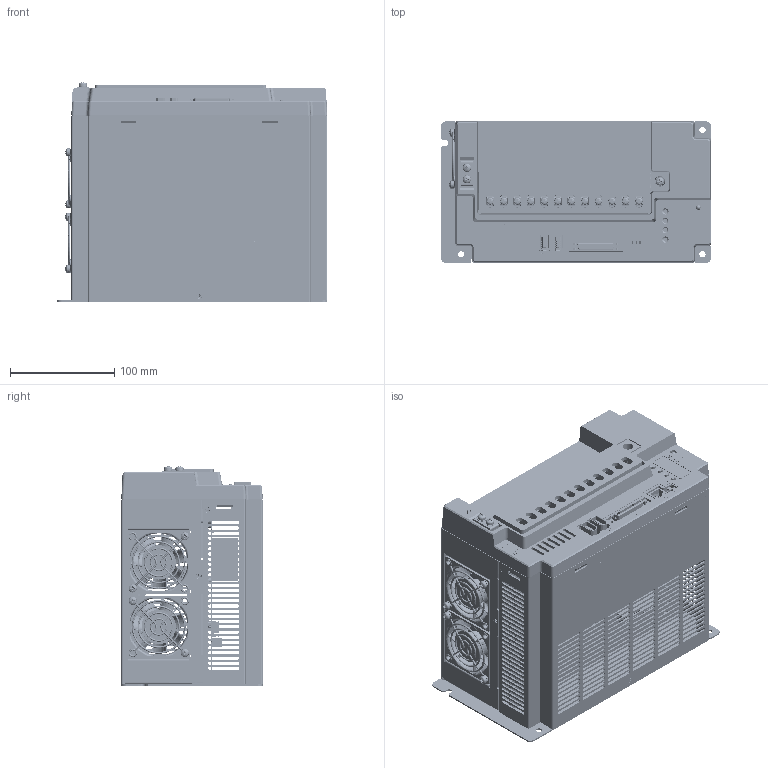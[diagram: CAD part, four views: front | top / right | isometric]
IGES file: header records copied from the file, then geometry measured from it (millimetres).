
Global section: file name: No Iges File Name specified; native system: AutoDesk Inventor R12.0; preprocessor: AutoDesk Inventor Iges Exporter R12.0; author: No Author specified; organization: No Organization specified; date: 20150723.135945; units: millimetre
Bounding box: 260 x 136 x 210.76 mm (x, y, z)
Volume: 646503.7 mm3; surface area: 736543.8 mm2
Topology: 3 solids, 3 shells, 14328 faces, 40709 edges, 26871 vertices
Faces by surface type: plane 10130, revolution 1740, cylinder 1242, bspline 817, cone 184, torus 182, sphere 33
